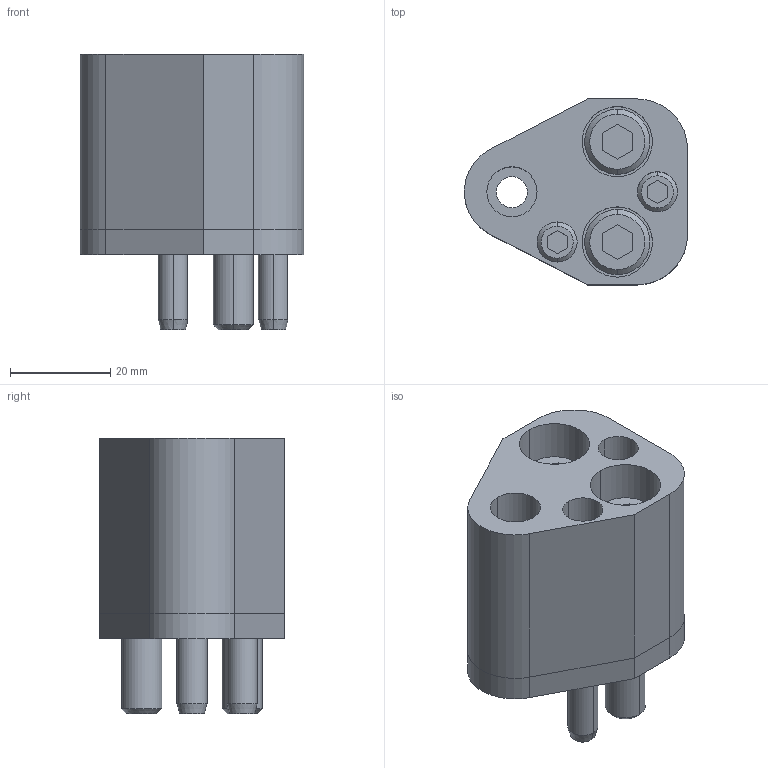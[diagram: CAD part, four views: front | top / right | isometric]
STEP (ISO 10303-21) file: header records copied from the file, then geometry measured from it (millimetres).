
FILE_DESCRIPTION(/* description */ (''),/* implementation_level */ '2;1');
FILE_NAME(/* name */ '3d_hap-ap10_02767_r00.stp',/* time_stamp */ '2011-01-10T14:14:59+09:00',/* author */ ('MISUMI'),/* organization */ (''),/* preprocessor_version */ 'ST-DEVELOPER v11',/* originating_system */ 'UGS - NX 5.0',/* authorisation */ '');
FILE_SCHEMA (('CONFIG_CONTROL_DESIGN'));
Length unit declared in the file: millimetre
Products named in the file (1): 3d_hap-ap10_02767_r00
Bounding box: 44.47 x 37 x 55 mm (x, y, z)
Volume: 44126.4 mm3; surface area: 20661.3 mm2
Topology: 8 solids, 8 shells, 155 faces, 346 edges, 222 vertices
Faces by surface type: plane 67, cylinder 62, cone 26
Entity records: 4474 total; most frequent: DIRECTION 804, CARTESIAN_POINT 772, ORIENTED_EDGE 692, EDGE_CURVE 346, AXIS2_PLACEMENT_3D 306, VERTEX_POINT 222, LINE 192, VECTOR 192
